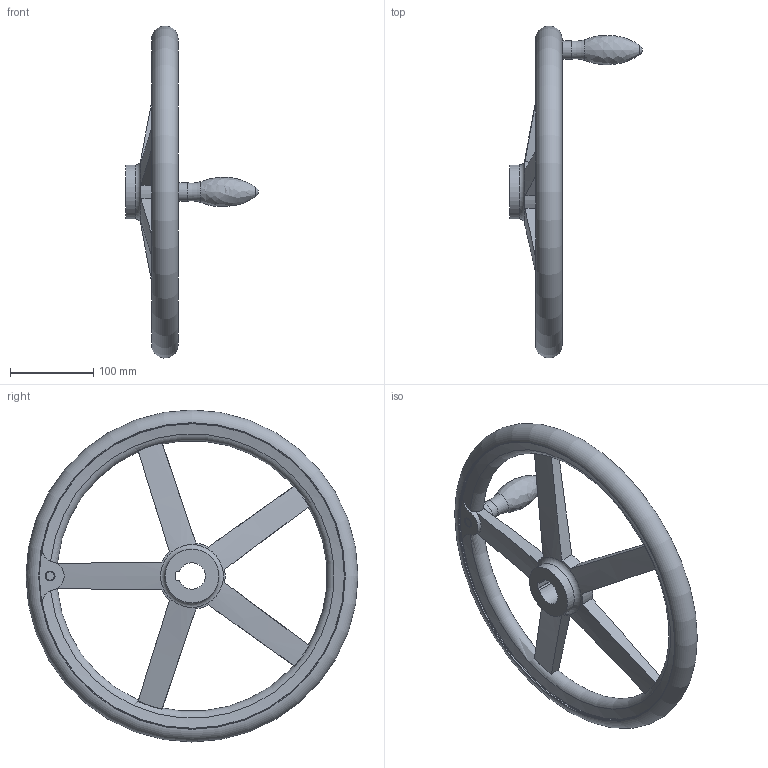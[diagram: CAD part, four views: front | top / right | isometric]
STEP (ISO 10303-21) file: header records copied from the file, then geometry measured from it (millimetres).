
FILE_DESCRIPTION( ( 'STEP AP203' ), '1' );
FILE_NAME( 'C:/Temp/Ganter_Step_05_03_2020/data/1_3/din_950/din_950_k/din_950_k_f/Handwheel DIN 950-AL-400-K32-F.stp', '2020-03-05T10:31:26', ( 'License CC BY-ND 4.0' ), ( 'CADENAS' ), ' ', 'PARTsolutions', ' ' );
FILE_SCHEMA( ( 'CONFIG_CONTROL_DESIGN' ) );
Length unit declared in the file: millimetre
Products named in the file (1): _Handwheel DIN 950-AL-400-K32-F
Bounding box: 159.5 x 399.9 x 399.9 mm (x, y, z)
Volume: 1427796.6 mm3; surface area: 209707 mm2
Topology: 1 solids, 1 shells, 64 faces, 190 edges, 123 vertices
Faces by surface type: cylinder 20, torus 19, plane 18, cone 5, sphere 1, bspline 1
Full cylindrical faces by diameter (mm): 12 x1, 21.8 x1, 65 x2, 368 x2
Entity records: 2611 total; most frequent: CARTESIAN_POINT 1036, ORIENTED_EDGE 326, DIRECTION 288, EDGE_CURVE 163, AXIS2_PLACEMENT_3D 129, VERTEX_POINT 117, EDGE_LOOP 90, FACE_OUTER_BOUND 79
